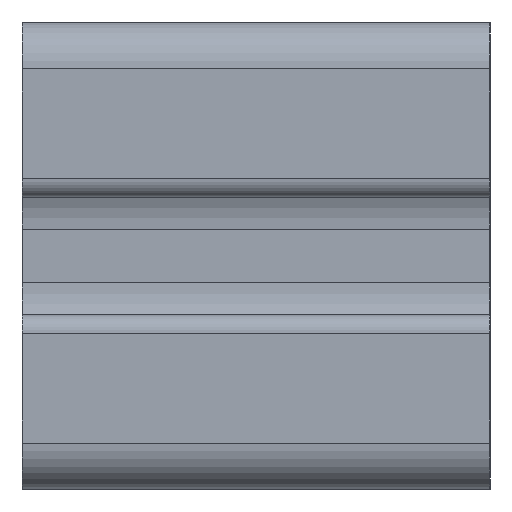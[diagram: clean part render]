
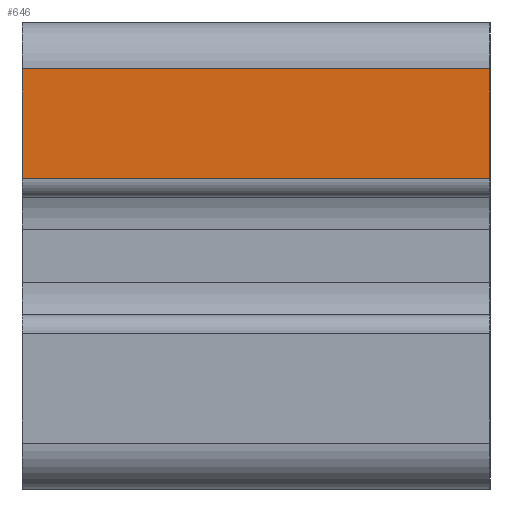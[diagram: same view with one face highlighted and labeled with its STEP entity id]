
A CAD part, left-side view. The second image highlights one B-rep face of the part: STEP entity #646.
In plain terms, the highlighted planar face has unit normal (-1, 0, 0).
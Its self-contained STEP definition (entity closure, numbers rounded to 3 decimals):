
#646=ADVANCED_FACE('',(#1304),#1305,.T.);
#1304=FACE_OUTER_BOUND('',#1975,.T.);
#1305=PLANE('',#1976);
#1975=EDGE_LOOP('',(#3785,#3786,#3787,#3788));
#1976=AXIS2_PLACEMENT_3D('',#3789,#3790,#3791);
#3785=ORIENTED_EDGE('',*,*,#4947,.T.);
#3786=ORIENTED_EDGE('',*,*,#4970,.T.);
#3787=ORIENTED_EDGE('',*,*,#4971,.F.);
#3788=ORIENTED_EDGE('',*,*,#4490,.F.);
#3789=CARTESIAN_POINT('',(-40.0,10.0,0.0));
#3790=DIRECTION('',(-1.0,0.0,0.0));
#3791=DIRECTION('',(0.0,0.0,-1.0));
#4490=EDGE_CURVE('',#5525,#5527,#5528,.T.);
#4947=EDGE_CURVE('',#5525,#6193,#6196,.T.);
#4970=EDGE_CURVE('',#6193,#6225,#6226,.T.);
#4971=EDGE_CURVE('',#5527,#6225,#6227,.T.);
#5525=VERTEX_POINT('',#6943);
#5527=VERTEX_POINT('',#6945);
#5528=LINE('',#6946,#6947);
#6193=VERTEX_POINT('',#7841);
#6196=LINE('',#7844,#7845);
#6225=VERTEX_POINT('',#7885);
#6226=LINE('',#7886,#7887);
#6227=LINE('',#7888,#7889);
#6943=CARTESIAN_POINT('',(-40.0,10.0,3.3));
#6945=CARTESIAN_POINT('',(-40.0,10.0,8.0));
#6946=CARTESIAN_POINT('',(-40.0,10.0,-8.0));
#6947=VECTOR('',#8449,1.0);
#7841=CARTESIAN_POINT('',(-40.0,-10.0,3.3));
#7844=CARTESIAN_POINT('',(-40.0,11.0,3.3));
#7845=VECTOR('',#8991,1.0);
#7885=CARTESIAN_POINT('',(-40.0,-10.0,8.0));
#7886=CARTESIAN_POINT('',(-40.0,-10.0,-8.0));
#7887=VECTOR('',#9012,1.0);
#7888=CARTESIAN_POINT('',(-40.0,10.0,8.0));
#7889=VECTOR('',#9013,1.0);
#8449=DIRECTION('',(0.0,0.0,1.0));
#8991=DIRECTION('',(0.0,-1.0,0.0));
#9012=DIRECTION('',(0.0,0.0,1.0));
#9013=DIRECTION('',(0.0,-1.0,0.0));
